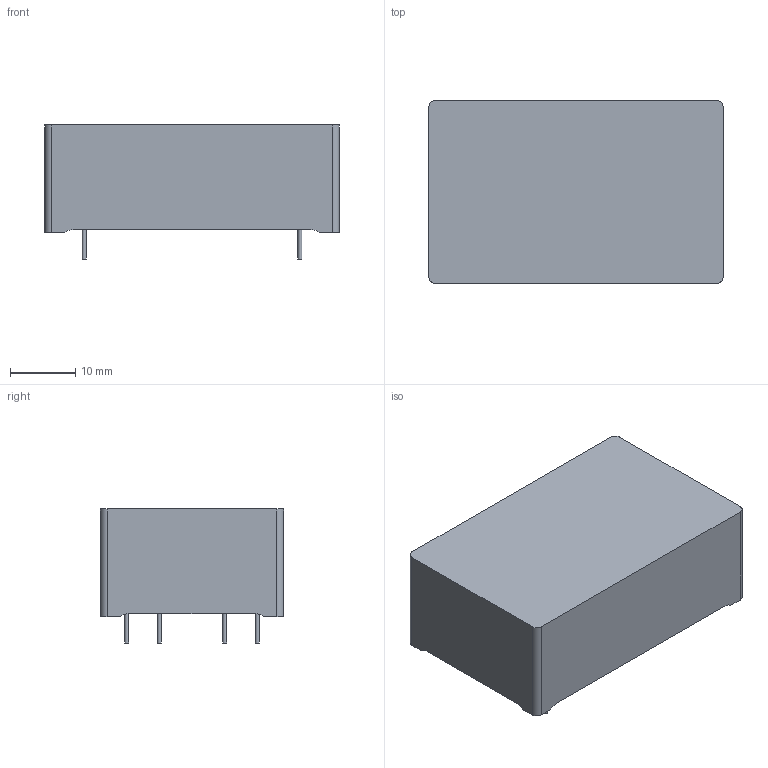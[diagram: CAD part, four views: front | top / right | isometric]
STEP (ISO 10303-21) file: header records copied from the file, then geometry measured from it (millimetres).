
FILE_DESCRIPTION((''),'2;1');
FILE_NAME('P:\Construction\Filter_Marketing\FN\FN402\FN402B-2.5-02\FN402B-2.5-02.stp','2014-07-28T10:00:36',('erika.jenzer'),(''),'Autodesk Inventor 2013','Autodesk Inventor 2013','');
FILE_SCHEMA(('AUTOMOTIVE_DESIGN { 1 0 10303 214 1 1 1 1 }'));
Length unit declared in the file: millimetre
Products named in the file (1): FN402B-2.5-02
Bounding box: 45 x 28 x 20.5 mm (x, y, z)
Volume: 20162.6 mm3; surface area: 4884 mm2
Topology: 1 solids, 1 shells, 42 faces, 108 edges, 72 vertices
Faces by surface type: plane 22, cylinder 20
Full cylindrical faces by diameter (mm): 0.6 x4
Entity records: 1298 total; most frequent: DIRECTION 230, CARTESIAN_POINT 219, ORIENTED_EDGE 208, EDGE_CURVE 104, AXIS2_PLACEMENT_3D 83, VERTEX_POINT 72, VECTOR 64, LINE 64
